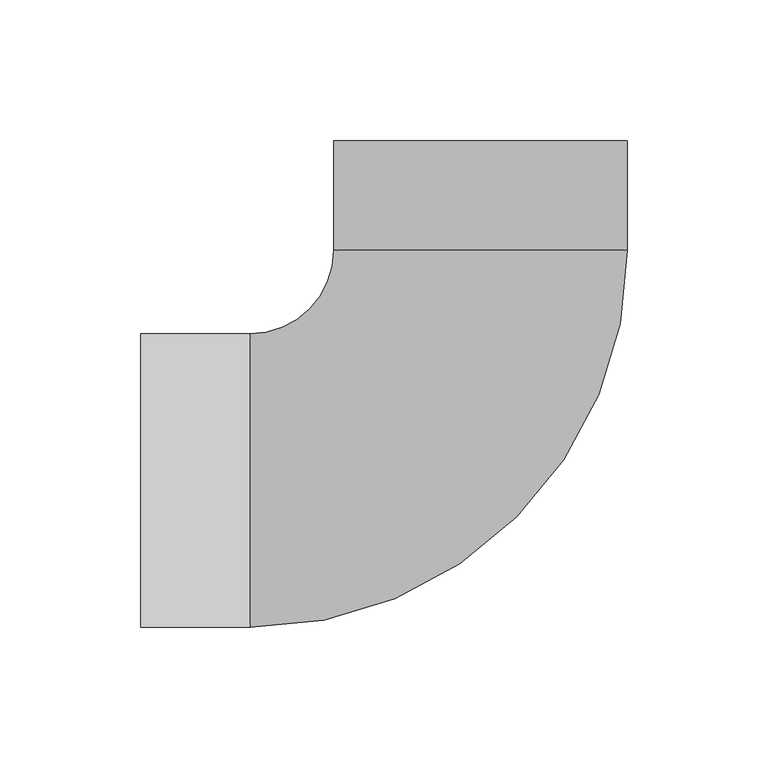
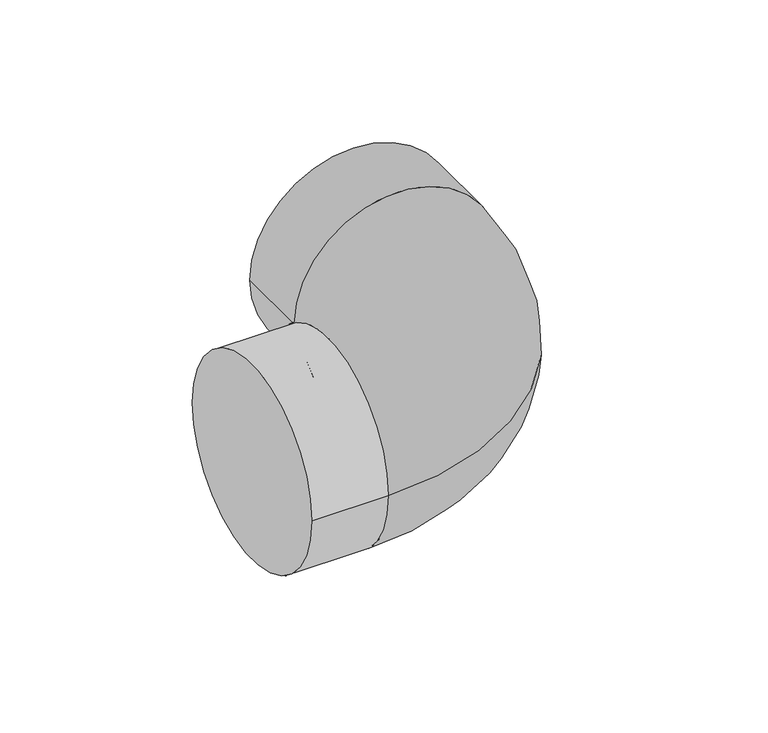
"""IFC4 building model written with IfcOpenShell, lengths in millimetres: pipe fitting geometry, 01101002 : Codos 90º."""

from ifc_helpers import new_model, si_unit, point, frame, origin, place, context, project, spatial, circle_curve, ellipse_curve, trimmed, source, transform, mapped, element, save
from ifc_brep_helpers import plane_surface, cylinder_surface, revolved_surface, advanced_brep


def pipe_fitting_575c1fe1(model_context):
    return source(origin(), model_context, "Body", "AdvancedBrep", [
        advanced_brep(
        [(-82.0, -52.25, 0.0), (52.25, 82.0, 0.0), (-52.25, 82.0, 0.0), (-82.0, 52.25, 0.0), (-52.25, 121.0, 0.0), (52.25, 121.0, 0.0), (-121.0, 52.25, 0.0), (-121.0, -52.25, 0.0)],
        [
            (0, 1, circle_curve(frame((-82.0, 82.0, 0.0), z_axis=(0.0, 0.0, 1.0), x_axis=(1.0, 0.0, 0.0)), 134.25)),
            (1, 2, circle_curve(frame((0.0, 82.0, 0.0), z_axis=(0.0, -1.0, 0.0), x_axis=(1.0, 0.0, 0.0)), 52.25)),
            (2, 3, circle_curve(frame((-82.0, 82.0, 0.0), z_axis=(0.0, 0.0, -1.0), x_axis=(1.0, 0.0, 0.0)), 29.75)),
            (3, 0, circle_curve(frame((-82.0, 0.0, 0.0), z_axis=(1.0, 0.0, 0.0), x_axis=(0.0, -1.0, 0.0)), 52.25)),
            (2, 1, circle_curve(frame((0.0, 82.0, 0.0), z_axis=(0.0, -1.0, 0.0), x_axis=(1.0, 0.0, 0.0)), 52.25)),
            (0, 3, circle_curve(frame((-82.0, 0.0, 0.0), z_axis=(1.0, 0.0, 0.0), x_axis=(0.0, -1.0, 0.0)), 52.25)),
            (4, 5, circle_curve(frame((0.0, 121.0, 0.0), z_axis=(0.0, 1.0, 0.0), x_axis=(1.0, 0.0, 0.0)), 52.25)),
            (5, 4, circle_curve(frame((0.0, 121.0, 0.0), z_axis=(0.0, 1.0, 0.0), x_axis=(1.0, 0.0, 0.0)), 52.25)),
            (6, 7, circle_curve(frame((-121.0, 0.0, 0.0), z_axis=(-1.0, 0.0, 0.0), x_axis=(0.0, -1.0, 0.0)), 52.25)),
            (7, 6, circle_curve(frame((-121.0, 0.0, 0.0), z_axis=(-1.0, 0.0, 0.0), x_axis=(0.0, -1.0, 0.0)), 52.25)),
            (3, 6),
            (7, 0),
            (4, 2),
            (1, 5),
        ],
        [
            revolved_surface(trimmed(ellipse_curve(frame((0.0, 82.0, 0.0), z_axis=(0.0, 1.0, 0.0), x_axis=(1.0, 0.0, 0.0)), 52.25, 52.25), [point((-52.25, 82.0, 0.0))], [point((52.25, 82.0, 0.0))], True, "CARTESIAN"), (-82.0, 82.0, 0.0), (0.0, 0.0, -1.0)),
            revolved_surface(trimmed(ellipse_curve(frame((0.0, 82.0, 0.0), z_axis=(0.0, 1.0, 0.0), x_axis=(1.0, 0.0, 0.0)), 52.25, 52.25), [point((52.25, 82.0, 0.0))], [point((-52.25, 82.0, 0.0))], True, "CARTESIAN"), (-82.0, 82.0, 0.0), (0.0, 0.0, -1.0)),
            plane_surface(frame((0.0, 121.0, 0.0), z_axis=(0.0, 1.0, 0.0), x_axis=(0.0, 0.0, 1.0))),
            plane_surface(frame((-121.0, 0.0, 0.0), z_axis=(-1.0, 0.0, 0.0), x_axis=(0.0, 0.0, 1.0))),
            cylinder_surface(frame((-82.0, 0.0, 0.0), z_axis=(1.0, 0.0, 0.0), x_axis=(0.0, -1.0, 0.0)), 52.25),
            cylinder_surface(frame((0.0, 121.0, 0.0), z_axis=(0.0, 1.0, 0.0), x_axis=(1.0, 0.0, 0.0)), 52.25),
        ],
        [
            (0, [[1, 2, 3, 4]]),
            (1, [[-3, 5, -1, 6]]),
            (2, [[7, 8]]),
            (3, [[9, 10]]),
            (4, [[-4, 11, -10, 12]]),
            (4, [[-6, -12, -9, -11]]),
            (5, [[-7, 13, -2, 14]]),
            (5, [[-8, -14, -5, -13]]),
        ],
    ),
    ])


if __name__ == "__main__":
    model = new_model("IFC4")
    model_context = context("Model", 3, world=origin())
    ifc_project = project(units=[si_unit("LENGTHUNIT", "METRE", prefix="MILLI")], contexts=[model_context])
    site = spatial("IfcSite", under=ifc_project)
    building = spatial("IfcBuilding", under=site)
    placement = place(None, origin())
    pipe_fitting_shape = pipe_fitting_575c1fe1(model_context)
    element("IfcPipeFitting", 1, ObjectType="01101002 : Codos 90º", at=placement, inside=building, context=model_context, shape_type="MappedRepresentation", body=[
        mapped(pipe_fitting_shape, transform((0.0, 0.0, 0.0), x_axis=(1.0, 0.0, 0.0), y_axis=(0.0, 1.0, 0.0), z_axis=(0.0, 0.0, 1.0))),
    ])
    save(model, "model.ifc")
